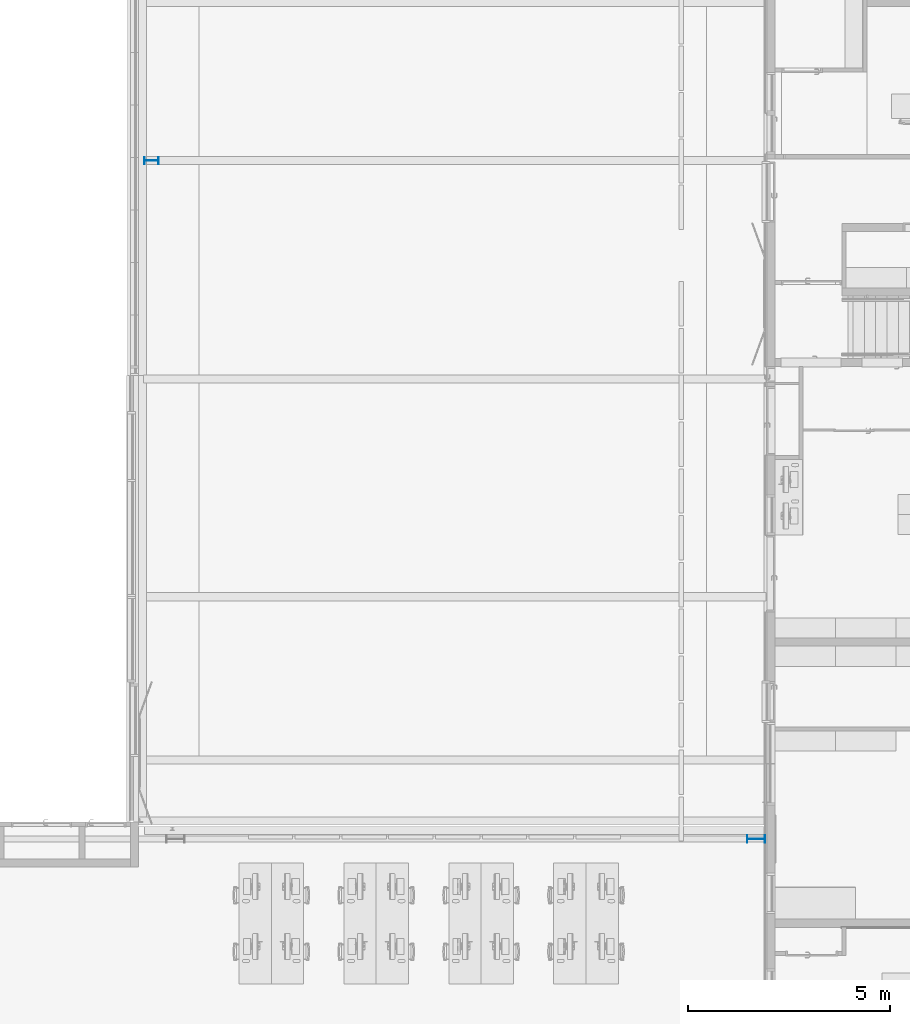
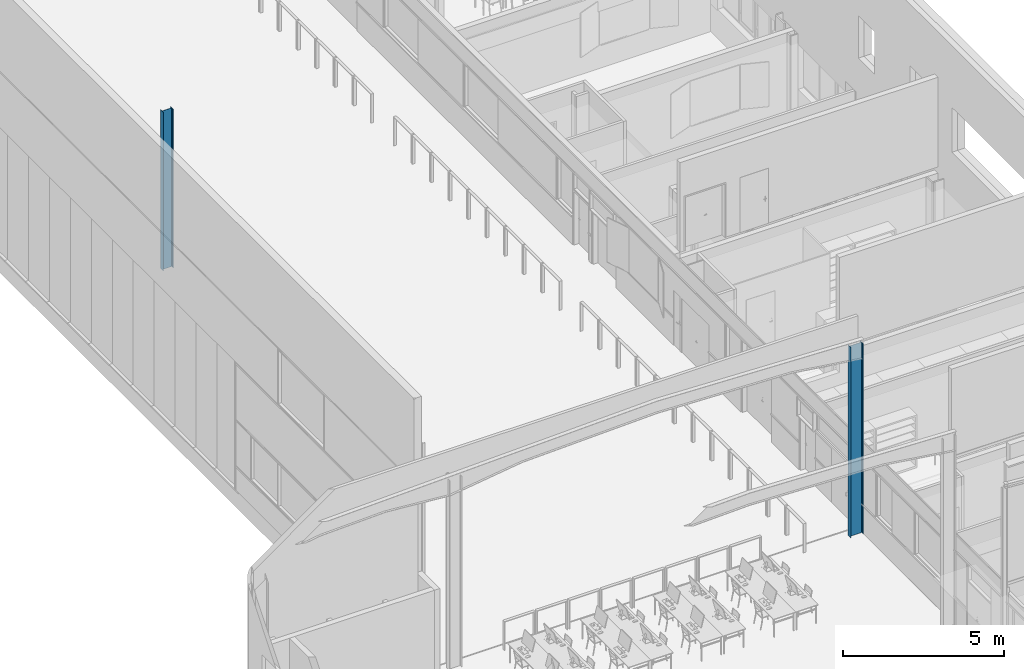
# One storey, part 9 of 137: 2 columns.
"""IFC2X3 building model written with IfcOpenShell, lengths in centimetres."""

from ifc_helpers import new_model, entity, si_unit, converted_unit, derived_unit, direction, frame, frame_2d, origin, place, context, subcontext, project, spatial, polyline, circle_curve, parameter, trimmed, segment, composite_curve, outline, extrude, source, transform, mapped, material, type_object, type_shapes, element, save


model = new_model("IFC2X3")

# Units and contexts
model_context = context("Model", 3, precision=0.001, world=origin(), true_north=direction((6.12303176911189e-17, 1.0)))
body_context = subcontext(model_context, "Body", "Model", "MODEL_VIEW")
ifc_project = project(units=[si_unit("LENGTHUNIT", "METRE", prefix="CENTI"), si_unit("AREAUNIT", "SQUARE_METRE"), si_unit("VOLUMEUNIT", "CUBIC_METRE"), converted_unit("PLANEANGLEUNIT", "DEGREE", entity("IfcRatioMeasure", 0.0174532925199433), si_unit("PLANEANGLEUNIT", "RADIAN"), dimensions=[0, 0, 0, 0, 0, 0, 0]), si_unit("MASSUNIT", "GRAM", prefix="KILO"), si_unit("TIMEUNIT", "SECOND"), si_unit("FREQUENCYUNIT", "HERTZ"), si_unit("THERMODYNAMICTEMPERATUREUNIT", "DEGREE_CELSIUS"), derived_unit("THERMALTRANSMITTANCEUNIT", [(si_unit("MASSUNIT", "GRAM", prefix="KILO"), 1), (si_unit("THERMODYNAMICTEMPERATUREUNIT", "KELVIN"), -1), (si_unit("TIMEUNIT", "SECOND"), -3)]), derived_unit("VOLUMETRICFLOWRATEUNIT", [(si_unit("LENGTHUNIT", "METRE"), 3), (si_unit("TIMEUNIT", "SECOND"), -1)]), si_unit("ELECTRICCURRENTUNIT", "AMPERE"), si_unit("ELECTRICVOLTAGEUNIT", "VOLT"), si_unit("POWERUNIT", "WATT"), si_unit("FORCEUNIT", "NEWTON", prefix="KILO"), si_unit("ILLUMINANCEUNIT", "LUX"), si_unit("LUMINOUSFLUXUNIT", "LUMEN"), si_unit("LUMINOUSINTENSITYUNIT", "CANDELA"), derived_unit("USERDEFINED", [(si_unit("MASSUNIT", "GRAM", prefix="KILO"), -1), (si_unit("LENGTHUNIT", "METRE"), -2), (si_unit("TIMEUNIT", "SECOND"), 3), (si_unit("LUMINOUSFLUXUNIT", "LUMEN"), 1)]), derived_unit("LINEARVELOCITYUNIT", [(si_unit("LENGTHUNIT", "METRE"), 1), (si_unit("TIMEUNIT", "SECOND"), -1)]), si_unit("PRESSUREUNIT", "PASCAL"), derived_unit("USERDEFINED", [(si_unit("LENGTHUNIT", "METRE"), -2), (si_unit("MASSUNIT", "GRAM", prefix="KILO"), 1), (si_unit("TIMEUNIT", "SECOND"), -2)])], contexts=[model_context])

# Site, building, storey
site_placement = place(None, frame((8.62739174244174, -249.285249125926, 0.0)))
site = spatial("IfcSite", under=ifc_project, at=site_placement, Name="Default", CompositionType="ELEMENT")
building_placement = place(site_placement, origin())
building = spatial("IfcBuilding", under=site, at=building_placement, CompositionType="ELEMENT")
storey_placement = place(building_placement, origin())
storey = spatial("IfcBuildingStorey", under=building, at=storey_placement, Name="RDC", CompositionType="ELEMENT", Elevation=-8.82465566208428e-11)

# Columns
ifc_material = material(Name="Acier, 45-345")
column_type_1 = type_object("IfcColumnType", Name="IPE 450", PredefinedType="COLUMN", material=ifc_material)
shared_shape_1 = source(origin(), body_context, "Body", "SweptSolid", [
    extrude(outline(composite_curve([segment(polyline([(21.6, -9.5), (22.5, -9.5)]), True, "CONTINUOUS"), segment(polyline([(22.5, -9.5), (22.5, 9.5)]), True, "CONTINUOUS"), segment(polyline([(22.5, 9.5), (21.6, 9.5)]), True, "CONTINUOUS"), segment(polyline([(21.6, 9.5), (21.6, 1.79999999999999)]), True, "CONTINUOUS"), segment(trimmed(circle_curve(frame_2d((20.1, 1.79999999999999), x_axis=(1.0, 0.0)), 1.49999999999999), [parameter(269.999999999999)], [parameter(0.0)], True, "PARAMETER"), False, "CONTINUOUS"), segment(polyline([(20.1, 0.3), (-20.1, 0.3)]), True, "CONTINUOUS"), segment(trimmed(circle_curve(frame_2d((-20.1, 1.8), x_axis=(0.0, -1.0)), 1.5), [parameter(270.0)], [parameter(0.0)], True, "PARAMETER"), False, "CONTINUOUS"), segment(polyline([(-21.6, 1.8), (-21.6, 9.5)]), True, "CONTINUOUS"), segment(polyline([(-21.6, 9.5), (-22.5, 9.5)]), True, "CONTINUOUS"), segment(polyline([(-22.5, 9.5), (-22.5, -9.5)]), True, "CONTINUOUS"), segment(polyline([(-22.5, -9.5), (-21.6, -9.5)]), True, "CONTINUOUS"), segment(polyline([(-21.6, -9.5), (-21.6, -1.8)]), True, "CONTINUOUS"), segment(trimmed(circle_curve(frame_2d((-20.1, -1.8), x_axis=(-1.0, 0.0)), 1.5), [parameter(269.999999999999)], [parameter(0.0)], True, "PARAMETER"), False, "CONTINUOUS"), segment(polyline([(-20.1, -0.299999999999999), (20.1, -0.299999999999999)]), True, "CONTINUOUS"), segment(trimmed(circle_curve(frame_2d((20.1, -1.80000000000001), x_axis=(0.0, 1.0)), 1.50000000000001), [parameter(270.0)], [parameter(0.0)], True, "PARAMETER"), False, "CONTINUOUS"), segment(polyline([(21.6, -1.8), (21.6, -9.5)]), True, "CONTINUOUS")], self_intersect=False)), frame((0.0, 0.0, 0.0), z_axis=(0.0, 0.0, 1.0), x_axis=(0.0, -1.0, 0.0)), (0.0, 0.0, 1.0), 722.0),
])
type_shapes(column_type_1, [shared_shape_1])
column_1_placement = place(storey_placement, frame((3007.40482780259, 3511.98020806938, 0.0), z_axis=(0.0, 0.0, 1.0), x_axis=(0.0, -1.0, 0.0)))
element("IfcColumn", 1, at=column_1_placement, inside=storey, type_object=column_type_1, material=ifc_material, Name="IPE-450-190:IPE 450", ObjectType="IPE 450", context=body_context, shape_type="MappedRepresentation", body=[
    mapped(shared_shape_1, transform((0.0, 0.0, 0.0), scale=1.0)),
])
column_type_2 = type_object("IfcColumnType", Name="IPE360", PredefinedType="COLUMN", material=ifc_material)
shared_shape_2 = source(origin(), body_context, "Body", "SweptSolid", [
    extrude(outline(composite_curve([segment(polyline([(17.1, -8.5), (18.0, -8.5)]), True, "CONTINUOUS"), segment(polyline([(18.0, -8.5), (18.0, 8.5)]), True, "CONTINUOUS"), segment(polyline([(18.0, 8.5), (17.1, 8.5)]), True, "CONTINUOUS"), segment(polyline([(17.1, 8.5), (17.1, 1.79999999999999)]), True, "CONTINUOUS"), segment(trimmed(circle_curve(frame_2d((15.6, 1.80000000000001), x_axis=(1.0, 0.0)), 1.50000000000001), [parameter(270.000000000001)], [parameter(0.0)], True, "PARAMETER"), False, "CONTINUOUS"), segment(polyline([(15.6, 0.3), (-15.6, 0.3)]), True, "CONTINUOUS"), segment(trimmed(circle_curve(frame_2d((-15.6, 1.8), x_axis=(0.0, -1.0)), 1.5), [parameter(270.0)], [parameter(0.0)], True, "PARAMETER"), False, "CONTINUOUS"), segment(polyline([(-17.1, 1.8), (-17.1, 8.5)]), True, "CONTINUOUS"), segment(polyline([(-17.1, 8.5), (-18.0, 8.5)]), True, "CONTINUOUS"), segment(polyline([(-18.0, 8.5), (-18.0, -8.5)]), True, "CONTINUOUS"), segment(polyline([(-18.0, -8.5), (-17.1, -8.5)]), True, "CONTINUOUS"), segment(polyline([(-17.1, -8.5), (-17.1, -1.8)]), True, "CONTINUOUS"), segment(trimmed(circle_curve(frame_2d((-15.6, -1.8), x_axis=(-1.0, 0.0)), 1.5), [parameter(269.999999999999)], [parameter(0.0)], True, "PARAMETER"), False, "CONTINUOUS"), segment(polyline([(-15.6, -0.299999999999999), (15.6, -0.299999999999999)]), True, "CONTINUOUS"), segment(trimmed(circle_curve(frame_2d((15.6, -1.79999999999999), x_axis=(0.0, 1.0)), 1.49999999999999), [parameter(269.999999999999)], [parameter(0.0)], True, "PARAMETER"), False, "CONTINUOUS"), segment(polyline([(17.1, -1.8), (17.1, -8.5)]), True, "CONTINUOUS")], self_intersect=False)), frame((0.0, 0.0, 515.0), z_axis=(0.0, 0.0, 1.0), x_axis=(0.0, -1.0, 0.0)), (0.0, 0.0, 1.0), 601.500000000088),
])
type_shapes(column_type_2, [shared_shape_2])
column_2_placement = place(storey_placement, frame((1508.86259763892, 5193.47890937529, 0.0), z_axis=(0.0, 0.0, 1.0), x_axis=(0.0, 1.0, 0.0)))
element("IfcColumn", 2, at=column_2_placement, inside=storey, type_object=column_type_2, material=ifc_material, Name="IPE-360-170:IPE360", ObjectType="IPE360", context=body_context, shape_type="MappedRepresentation", body=[
    mapped(shared_shape_2, transform((0.0, 0.0, 0.0), scale=1.0)),
])

save(model, "model.ifc")
